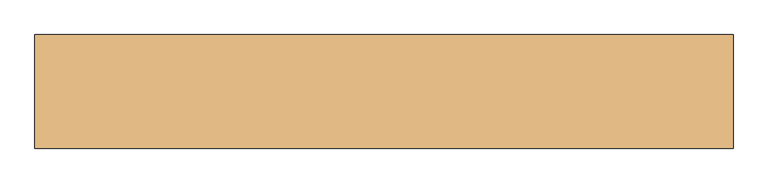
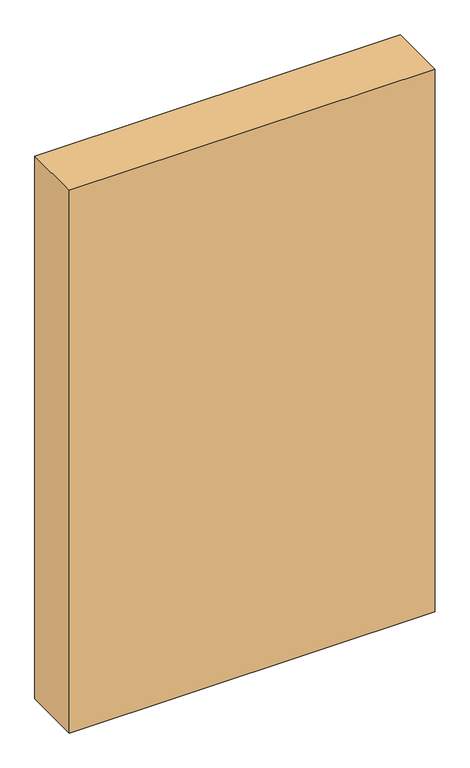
"""IFC4 building model written with IfcOpenShell, lengths in millimetres: door geometry, Dr_Проем-Простой : ДВ."""

import ifcopenshell
import ifcopenshell.guid

model = None  # the IFC model being written
_history = None  # IfcOwnerHistory: only IFC2X3 demands one
_inside = {}  # id of a spatial element -> (the spatial element, [elements in it])
_under = {}  # id of a project, library or spatial element -> (it, [spatial elements below it])
_declared = {}  # id of a project -> (the project, [libraries it declares])
_typed = {}  # id of a type object -> (the type object, [elements of that type])
_made_of = {}  # id of a material, layer set ... -> (it, [elements and type objects made of it])


def new_model(schema):
    """Start an empty IFC model of exactly this schema.

    Asked for "IFC4X3", IfcOpenShell would pick the latest addendum, in which some entities
    have other attributes; the version numbers below select the first issue.
    IFC2X3 requires an IfcOwnerHistory on every rooted entity: one is made here for all.
    """
    global model, _history
    if schema == "IFC4X3":
        model = ifcopenshell.file(schema_version=(4, 3, 0, 0))
    else:
        model = ifcopenshell.file(schema=schema)
    _inside.clear()
    _under.clear()
    _declared.clear()
    _typed.clear()
    _made_of.clear()
    _history = None
    if model.schema == "IFC2X3":
        org = make("IfcOrganization", Name="unknown")
        user = make(
            "IfcPersonAndOrganization",
            ThePerson=make("IfcPerson", FamilyName="unknown"),
            TheOrganization=org,
        )
        app = make(
            "IfcApplication",
            ApplicationDeveloper=org,
            Version="unknown",
            ApplicationFullName="unknown",
            ApplicationIdentifier="unknown",
        )
        _history = make(
            "IfcOwnerHistory",
            OwningUser=user,
            OwningApplication=app,
            ChangeAction="ADDED",
            CreationDate=0,
        )
    return model


def make(cls, **values):
    """One entity of the class cls with the attributes given. An attribute that is None is left unset."""
    return model.create_entity(
        cls, **{name: value for name, value in values.items() if value is not None}
    )


def rooted(cls, **values):
    """An entity with a GlobalId (a new one), such as an element, a storey or a relation."""
    return make(cls, GlobalId=ifcopenshell.guid.new(), OwnerHistory=_history, **values)


def si_unit(unit_type, name, prefix=None):
    """IfcSIUnit, for example si_unit("LENGTHUNIT", "METRE", prefix="MILLI")."""
    return make("IfcSIUnit", UnitType=unit_type, Prefix=prefix, Name=name)


def assignment(units):
    """IfcUnitAssignment: the units of a project."""
    return None if units is None else make("IfcUnitAssignment", Units=units)


def point(xyz):
    """IfcCartesianPoint."""
    return None if xyz is None else make("IfcCartesianPoint", Coordinates=xyz)


def direction(xyz):
    """IfcDirection."""
    return None if xyz is None else make("IfcDirection", DirectionRatios=xyz)


def frame(location, z_axis=None, x_axis=None):
    """IfcAxis2Placement3D, a coordinate frame: its origin and axes. An axis left out is left unset."""
    return make(
        "IfcAxis2Placement3D",
        Location=point(location),
        Axis=direction(z_axis),
        RefDirection=direction(x_axis),
    )


def origin():
    """The frame at (0, 0, 0) with its axes left unset."""
    return frame((0.0, 0.0, 0.0))


def place(relative_to, where):
    """IfcLocalPlacement: puts the frame where relative to a parent placement (None: the world)."""
    return make(
        "IfcLocalPlacement", PlacementRelTo=relative_to, RelativePlacement=where
    )


def context(
    kind, dimensions, precision=None, world=None, true_north=None, identifier=None
):
    """IfcGeometricRepresentationContext, for example the 3D "Model" context."""
    return make(
        "IfcGeometricRepresentationContext",
        ContextIdentifier=identifier,
        ContextType=kind,
        CoordinateSpaceDimension=dimensions,
        Precision=precision,
        WorldCoordinateSystem=world,
        TrueNorth=true_north,
    )


def project(units=None, contexts=None):
    """IfcProject with its units and contexts."""
    return rooted(
        "IfcProject",
        Name="project",
        RepresentationContexts=contexts,
        UnitsInContext=assignment(units),
    )


def spatial(cls, under=None, at=None, **own):
    """A site, building, storey or space (cls), placed at a placement, below another one or the project."""
    s = rooted(cls, ObjectPlacement=at, **own)
    if under is not None:
        _under.setdefault(under.id(), (under, []))[1].append(s)
    return s


def polyline(points):
    """IfcPolyline through the points."""
    return make("IfcPolyline", Points=[point(p) for p in points])


def outline(outer, holes=None, kind="AREA"):
    """IfcArbitraryClosedProfileDef: a profile drawn as a closed curve; with holes, ...WithVoids."""
    if holes is None:
        return make("IfcArbitraryClosedProfileDef", ProfileType=kind, OuterCurve=outer)
    return make(
        "IfcArbitraryProfileDefWithVoids",
        ProfileType=kind,
        OuterCurve=outer,
        InnerCurves=holes,
    )


def extrude(swept, where, along, depth):
    """IfcExtrudedAreaSolid: the profile swept, set in the frame where, extruded along a direction by depth."""
    return make(
        "IfcExtrudedAreaSolid",
        SweptArea=swept,
        Position=where,
        ExtrudedDirection=direction(along),
        Depth=depth,
    )


def shape(context_of_items, identifier, shape_type, items):
    """IfcShapeRepresentation: the items that make up one representation, for example the "Body"."""
    return make(
        "IfcShapeRepresentation",
        ContextOfItems=context_of_items,
        RepresentationIdentifier=identifier,
        RepresentationType=shape_type,
        Items=items,
    )


def source(mapping_origin, context_of_items, identifier, shape_type, items):
    """IfcRepresentationMap: a shape defined once, which mapped items show again and again."""
    return make(
        "IfcRepresentationMap",
        MappingOrigin=mapping_origin,
        MappedRepresentation=shape(context_of_items, identifier, shape_type, items),
    )


def transform(
    local_origin,
    x_axis=None,
    y_axis=None,
    z_axis=None,
    scale=None,
    scale2=None,
    scale3=None,
    uniform=True,
):
    """IfcCartesianTransformationOperator3D, or its non-uniform kind. x_axis, y_axis, z_axis: its Axis1, 2, 3."""
    if uniform:
        return make(
            "IfcCartesianTransformationOperator3D",
            Axis1=direction(x_axis),
            Axis2=direction(y_axis),
            LocalOrigin=point(local_origin),
            Scale=scale,
            Axis3=direction(z_axis),
        )
    return make(
        "IfcCartesianTransformationOperator3DnonUniform",
        Axis1=direction(x_axis),
        Axis2=direction(y_axis),
        LocalOrigin=point(local_origin),
        Scale=scale,
        Axis3=direction(z_axis),
        Scale2=scale2,
        Scale3=scale3,
    )


def mapped(mapping_source, mapping_target):
    """IfcMappedItem: shows the shape of a source again, moved by a transform."""
    return make(
        "IfcMappedItem", MappingSource=mapping_source, MappingTarget=mapping_target
    )


def made_of(thing, what):
    """Note that an element or type object is made of a material, layer set ...; save() writes the relation."""
    if what is not None:
        _made_of.setdefault(what.id(), (what, []))[1].append(thing)
    return thing


def element(
    cls,
    number,
    at=None,
    inside=None,
    cuts=None,
    type_object=None,
    material=None,
    context=None,
    identifier="Body",
    shape_type=None,
    held_by="IfcProductDefinitionShape",
    body=None,
    shapes=None,
    **own,
):
    """One element of the class cls, such as IfcWall. Its Tag is "e" and its number.

    at: its placement. inside: the storey or other place that contains it. cuts: it is an
    opening in that element (IfcRelVoidsElement). A single representation is given by context,
    identifier, shape_type and body (its items); several are given by shapes. held_by: the class
    of the entity that holds the representations. save() writes the other relations.
    """
    e = rooted(cls, Tag="e%d" % number, ObjectPlacement=at, **own)
    if body is not None:
        shapes = [shape(context, identifier, shape_type, body)]
    if shapes is not None:
        e.Representation = make(held_by, Representations=shapes)
    if inside is not None:
        _inside.setdefault(inside.id(), (inside, []))[1].append(e)
    if cuts is not None:
        rooted(
            "IfcRelVoidsElement", RelatingBuildingElement=cuts, RelatedOpeningElement=e
        )
    if type_object is not None:
        _typed.setdefault(type_object.id(), (type_object, []))[1].append(e)
    return made_of(e, material)


def aggregate(whole, parts):
    """IfcRelAggregates: a whole, such as a stair, and the parts it consists of."""
    return rooted("IfcRelAggregates", RelatingObject=whole, RelatedObjects=parts)


def save(model, path):
    """Write the relations noted so far, then the file.

    IfcRelAggregates (storeys below a building ...), IfcRelContainedInSpatialStructure (elements
    in a storey), IfcRelDefinesByType, IfcRelAssociatesMaterial and IfcRelDeclares: one each for
    every whole, place, type object, material and project.
    """
    for whole, parts in _under.values():
        aggregate(whole, parts)
    for where, things in _inside.values():
        rooted(
            "IfcRelContainedInSpatialStructure",
            RelatedElements=things,
            RelatingStructure=where,
        )
    for kind, things in _typed.values():
        rooted("IfcRelDefinesByType", RelatedObjects=things, RelatingType=kind)
    for what, things in _made_of.values():
        rooted("IfcRelAssociatesMaterial", RelatedObjects=things, RelatingMaterial=what)
    for by, libraries in _declared.values():
        rooted("IfcRelDeclares", RelatingContext=by, RelatedDefinitions=libraries)
    model.write(path)


def door_0ca1aa13(model_context):
    return source(origin(), model_context, "Body", "SweptSolid", [
        extrude(outline(polyline([(970.3230163, 125.0), (970.3230163, -125.0), (-559.6769837, -125.0), (-559.6769837, 125.0), (970.3230163, 125.0)])), frame((0.0, 0.0, -100.0), z_axis=(0.0, 0.0, 1.0), x_axis=(1.0, 0.0, 0.0)), (0.0, 0.0, 1.0), 2400.0),
    ])


if __name__ == "__main__":
    model = new_model("IFC4")
    model_context = context("Model", 3, world=origin())
    ifc_project = project(units=[si_unit("LENGTHUNIT", "METRE", prefix="MILLI")], contexts=[model_context])
    site = spatial("IfcSite", under=ifc_project)
    building = spatial("IfcBuilding", under=site)
    placement = place(None, origin())
    door_shape = door_0ca1aa13(model_context)
    element("IfcDoor", 1, ObjectType="Dr_Проем-Простой : ДВ", at=placement, inside=building, context=model_context, shape_type="MappedRepresentation", body=[
        mapped(door_shape, transform((0.0, 0.0, 0.0), x_axis=(1.0, 0.0, 0.0), y_axis=(0.0, 1.0, 0.0), z_axis=(0.0, 0.0, 1.0))),
    ])
    save(model, "model.ifc")
